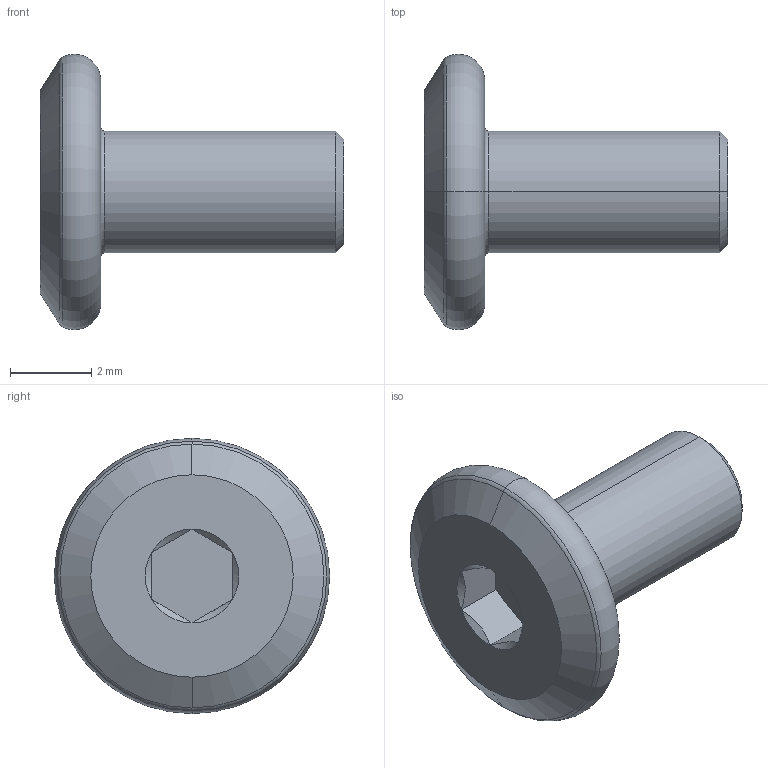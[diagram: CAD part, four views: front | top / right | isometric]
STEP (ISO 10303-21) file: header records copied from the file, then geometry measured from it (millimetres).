
FILE_DESCRIPTION (( 'STEP AP203' ), '1' );
FILE_NAME ('LGD-304D-M3x6.STEP', '2026-08-13T04:00:33', ( '' ), ( '' ), 'SwSTEP 2.0', 'SolidWorks 2020', '' );
FILE_SCHEMA (( 'CONFIG_CONTROL_DESIGN' ));
Length unit declared in the file: millimetre
Products named in the file (1): LGD-304D-M3x6
Bounding box: 7.5 x 6.8 x 6.8 mm (x, y, z)
Volume: 85.6 mm3; surface area: 151.5 mm2
Topology: 1 solids, 1 shells, 28 faces, 52 edges, 28 vertices
Faces by surface type: cone 10, plane 10, torus 6, cylinder 2
Entity records: 779 total; most frequent: CARTESIAN_POINT 139, DIRECTION 132, ORIENTED_EDGE 104, AXIS2_PLACEMENT_3D 57, EDGE_CURVE 52, EDGE_LOOP 30, FACE_OUTER_BOUND 28, CIRCLE 28
